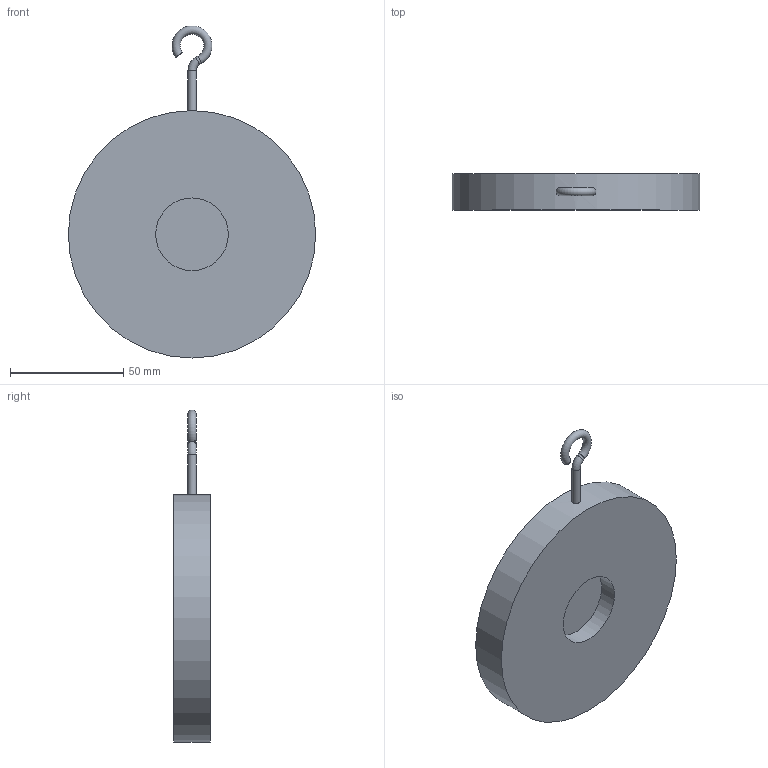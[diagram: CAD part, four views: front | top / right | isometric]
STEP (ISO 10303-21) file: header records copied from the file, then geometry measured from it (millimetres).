
FILE_DESCRIPTION(('STEP AP203'), '1');
FILE_NAME('孰囡囗 钺疣蝽 钿眍耱忸瘅囹 戾骠豚眦邂 008C DN50', '', ('UNSPECIFIED'), ('UNSPECIFIED'), 'ASCON STEP Converter 1.6', 'ASCON Math Kernel', '');
FILE_SCHEMA(('CONFIG_CONTROL_DESIGN'));
Length unit declared in the file: millimetre
Bounding box: 109 x 16 x 146.27 mm (x, y, z)
Volume: 131203.2 mm3; surface area: 27150.6 mm2
Topology: 1 solids, 1 shells, 15 faces, 30 edges, 19 vertices
Faces by surface type: plane 7, cylinder 5, torus 2, cone 1
Full cylindrical faces by diameter (mm): 3.6 x2, 32 x1, 109 x1
Entity records: 711 total; most frequent: CARTESIAN_POINT 267, DIRECTION 62, ORIENTED_EDGE 46, AXIS2_PLACEMENT_3D 28, EDGE_LOOP 24, EDGE_CURVE 23, VERTEX_POINT 19, COLOUR_RGB 16
